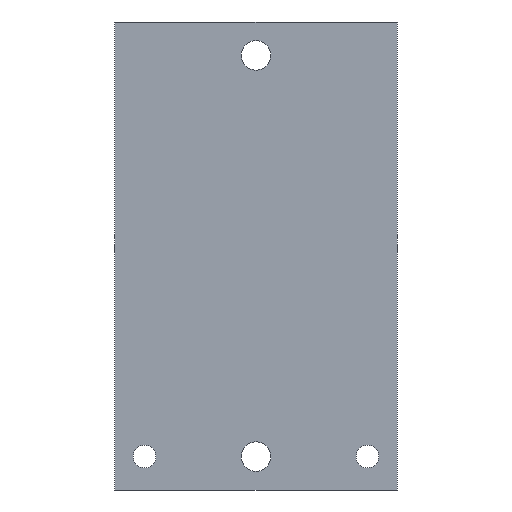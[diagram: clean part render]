
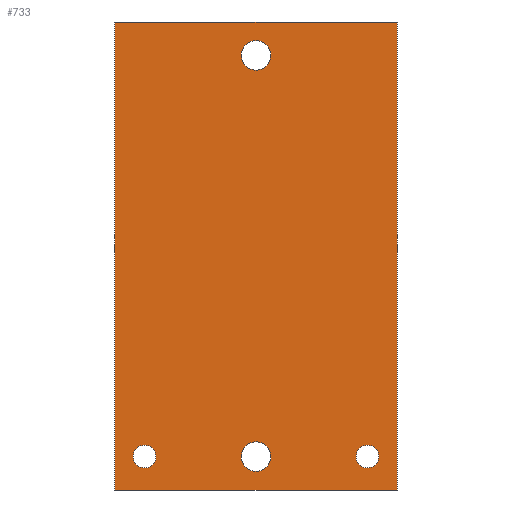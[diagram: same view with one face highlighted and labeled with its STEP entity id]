
A CAD part, front view. The second image highlights one B-rep face of the part: STEP entity #733.
In plain terms, the highlighted planar face has unit normal (0, -1, 0).
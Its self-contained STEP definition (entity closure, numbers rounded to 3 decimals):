
#13=DIRECTION('',(0.,0.,1.));
#14=VECTOR('',#13,105.);
#15=CARTESIAN_POINT('',(31.65,0.,-52.5));
#16=LINE('',#15,#14);
#17=DIRECTION('',(-1.,0.,0.));
#18=VECTOR('',#17,63.3);
#19=CARTESIAN_POINT('',(31.65,0.,52.5));
#20=LINE('',#19,#18);
#21=DIRECTION('',(-1.,0.,0.));
#22=VECTOR('',#21,63.3);
#23=CARTESIAN_POINT('',(31.65,0.,-52.5));
#24=LINE('',#23,#22);
#25=CARTESIAN_POINT('',(0.,0.,-45.));
#26=DIRECTION('',(0.,1.,0.));
#27=DIRECTION('',(1.,0.,0.));
#28=AXIS2_PLACEMENT_3D('',#25,#26,#27);
#30=CARTESIAN_POINT('',(0.,0.,-45.));
#31=DIRECTION('',(0.,1.,0.));
#32=DIRECTION('',(-1.,0.,0.));
#33=AXIS2_PLACEMENT_3D('',#30,#31,#32);
#35=CARTESIAN_POINT('',(0.,0.,45.));
#36=DIRECTION('',(0.,1.,0.));
#37=DIRECTION('',(1.,0.,0.));
#38=AXIS2_PLACEMENT_3D('',#35,#36,#37);
#40=CARTESIAN_POINT('',(0.,0.,45.));
#41=DIRECTION('',(0.,1.,0.));
#42=DIRECTION('',(-1.,0.,0.));
#43=AXIS2_PLACEMENT_3D('',#40,#41,#42);
#45=CARTESIAN_POINT('',(-25.,0.,-45.));
#46=DIRECTION('',(0.,-1.,0.));
#47=DIRECTION('',(1.,0.,0.));
#48=AXIS2_PLACEMENT_3D('',#45,#46,#47);
#50=CARTESIAN_POINT('',(-25.,0.,-45.));
#51=DIRECTION('',(0.,-1.,0.));
#52=DIRECTION('',(-1.,0.,0.));
#53=AXIS2_PLACEMENT_3D('',#50,#51,#52);
#55=CARTESIAN_POINT('',(25.,0.,-45.));
#56=DIRECTION('',(0.,-1.,0.));
#57=DIRECTION('',(1.,0.,0.));
#58=AXIS2_PLACEMENT_3D('',#55,#56,#57);
#60=CARTESIAN_POINT('',(25.,0.,-45.));
#61=DIRECTION('',(0.,-1.,0.));
#62=DIRECTION('',(-1.,0.,0.));
#63=AXIS2_PLACEMENT_3D('',#60,#61,#62);
#213=DIRECTION('',(0.,0.,1.));
#214=VECTOR('',#213,105.);
#215=CARTESIAN_POINT('',(-31.65,0.,-52.5));
#216=LINE('',#215,#214);
#505=CARTESIAN_POINT('',(31.65,0.,52.5));
#507=VERTEX_POINT('',#505);
#511=CARTESIAN_POINT('',(31.65,0.,-52.5));
#512=VERTEX_POINT('',#511);
#513=CARTESIAN_POINT('',(-31.65,0.,52.5));
#515=VERTEX_POINT('',#513);
#519=CARTESIAN_POINT('',(-31.65,0.,-52.5));
#520=VERTEX_POINT('',#519);
#589=CARTESIAN_POINT('',(-22.445,0.,-45.));
#590=CARTESIAN_POINT('',(-27.555,0.,-45.));
#591=VERTEX_POINT('',#589);
#592=VERTEX_POINT('',#590);
#597=CARTESIAN_POINT('',(27.555,0.,-45.));
#598=CARTESIAN_POINT('',(22.445,0.,-45.));
#599=VERTEX_POINT('',#597);
#600=VERTEX_POINT('',#598);
#613=CARTESIAN_POINT('',(3.3,0.,-45.));
#614=CARTESIAN_POINT('',(-3.3,0.,-45.));
#615=VERTEX_POINT('',#613);
#616=VERTEX_POINT('',#614);
#629=CARTESIAN_POINT('',(3.3,0.,45.));
#630=CARTESIAN_POINT('',(-3.3,0.,45.));
#631=VERTEX_POINT('',#629);
#632=VERTEX_POINT('',#630);
#696=CARTESIAN_POINT('',(31.65,0.,-52.5));
#697=DIRECTION('',(0.,-1.,0.));
#698=DIRECTION('',(0.,0.,1.));
#699=AXIS2_PLACEMENT_3D('',#696,#697,#698);
#700=PLANE('',#699);
#701=ORIENTED_EDGE('',*,*,#676,.F.);
#703=ORIENTED_EDGE('',*,*,#702,.T.);
#705=ORIENTED_EDGE('',*,*,#704,.T.);
#706=ORIENTED_EDGE('',*,*,#687,.F.);
#707=EDGE_LOOP('',(#701,#703,#705,#706));
#708=FACE_OUTER_BOUND('',#707,.F.);
#710=ORIENTED_EDGE('',*,*,#709,.F.);
#712=ORIENTED_EDGE('',*,*,#711,.F.);
#713=EDGE_LOOP('',(#710,#712));
#714=FACE_BOUND('',#713,.F.);
#716=ORIENTED_EDGE('',*,*,#715,.F.);
#718=ORIENTED_EDGE('',*,*,#717,.F.);
#719=EDGE_LOOP('',(#716,#718));
#720=FACE_BOUND('',#719,.F.);
#722=ORIENTED_EDGE('',*,*,#721,.T.);
#724=ORIENTED_EDGE('',*,*,#723,.T.);
#725=EDGE_LOOP('',(#722,#724));
#726=FACE_BOUND('',#725,.F.);
#728=ORIENTED_EDGE('',*,*,#727,.T.);
#730=ORIENTED_EDGE('',*,*,#729,.T.);
#731=EDGE_LOOP('',(#728,#730));
#732=FACE_BOUND('',#731,.F.);
#733=ADVANCED_FACE('',(#708,#714,#720,#726,#732),#700,.T.);
#29=CIRCLE('',#28,3.3);
#34=CIRCLE('',#33,3.3);
#39=CIRCLE('',#38,3.3);
#44=CIRCLE('',#43,3.3);
#49=CIRCLE('',#48,2.555);
#54=CIRCLE('',#53,2.555);
#59=CIRCLE('',#58,2.555);
#64=CIRCLE('',#63,2.555);
#676=EDGE_CURVE('',#512,#507,#16,.T.);
#687=EDGE_CURVE('',#507,#515,#20,.T.);
#702=EDGE_CURVE('',#512,#520,#24,.T.);
#704=EDGE_CURVE('',#520,#515,#216,.T.);
#709=EDGE_CURVE('',#615,#616,#29,.T.);
#711=EDGE_CURVE('',#616,#615,#34,.T.);
#715=EDGE_CURVE('',#631,#632,#39,.T.);
#717=EDGE_CURVE('',#632,#631,#44,.T.);
#721=EDGE_CURVE('',#591,#592,#49,.T.);
#723=EDGE_CURVE('',#592,#591,#54,.T.);
#727=EDGE_CURVE('',#599,#600,#59,.T.);
#729=EDGE_CURVE('',#600,#599,#64,.T.);
